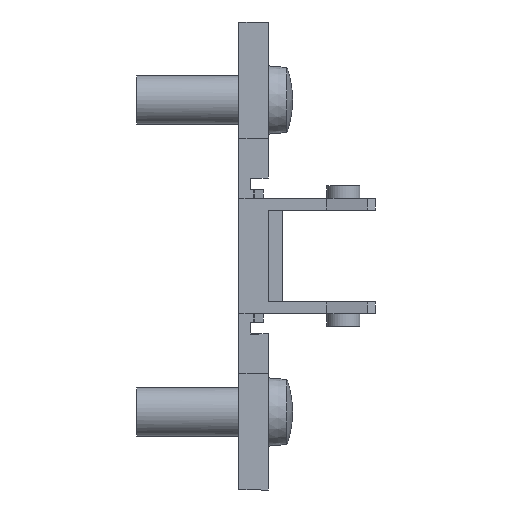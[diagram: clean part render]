
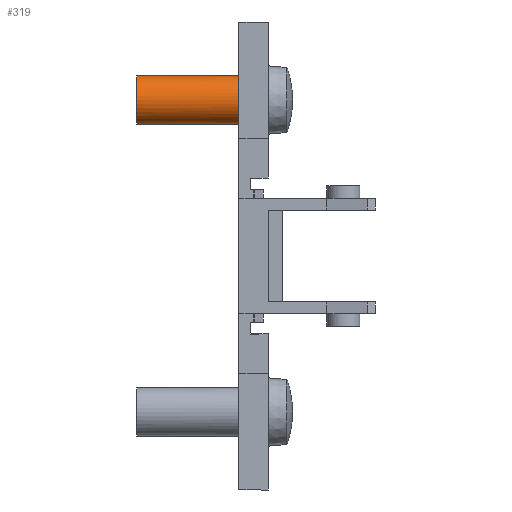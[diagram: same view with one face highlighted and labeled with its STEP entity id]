
A CAD part, front view. The second image highlights one B-rep face of the part: STEP entity #319.
In plain terms, the highlighted cylindrical face has radius 2.5 mm (diameter 5 mm), a partial arc.
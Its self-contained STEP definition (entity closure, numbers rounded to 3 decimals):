
#80 = VERTEX_POINT ( 'NONE', #2513 ) ;
#81 = VERTEX_POINT ( 'NONE', #2508 ) ;
#82 = VERTEX_POINT ( 'NONE', #2498 ) ;
#84 = VERTEX_POINT ( 'NONE', #2564 ) ;
#85 = VERTEX_POINT ( 'NONE', #2562 ) ;
#87 = VERTEX_POINT ( 'NONE', #2454 ) ;
#319 = ADVANCED_FACE ( 'NONE', ( #3715 ), #3718, .T. ) ;
#531 = CIRCLE ( 'NONE', #1163, 2.5 ) ;
#562 = CIRCLE ( 'NONE', #1161, 2.5 ) ;
#593 = LINE ( 'NONE', #2042, #594 ) ;
#594 = VECTOR ( 'NONE', #2043, 1000. ) ;
#620 = CIRCLE ( 'NONE', #1176, 2.5 ) ;
#651 = CIRCLE ( 'NONE', #1175, 2.5 ) ;
#804 = EDGE_CURVE ( 'NONE', #85, #84, #3768, .T. ) ;
#1078 = AXIS2_PLACEMENT_3D ( 'NONE', #1245, #1244, #1243 ) ;
#1161 = AXIS2_PLACEMENT_3D ( 'NONE', #1986, #2001, #2002 ) ;
#1163 = AXIS2_PLACEMENT_3D ( 'NONE', #1959, #1961, #1962 ) ;
#1175 = AXIS2_PLACEMENT_3D ( 'NONE', #2106, #2108, #2109 ) ;
#1176 = AXIS2_PLACEMENT_3D ( 'NONE', #2057, #2074, #2075 ) ;
#1243 = DIRECTION ( 'NONE',  ( 0., 0., -1. ) ) ;
#1244 = DIRECTION ( 'NONE',  ( -1., 0., 0. ) ) ;
#1245 = CARTESIAN_POINT ( 'NONE',  ( -10.5, 0., 16. ) ) ;
#1360 = CARTESIAN_POINT ( 'NONE',  ( -10.5, 0., 13.5 ) ) ;
#1365 = DIRECTION ( 'NONE',  ( -1., 0., 0. ) ) ;
#1959 = CARTESIAN_POINT ( 'NONE',  ( 0., 0., 16. ) ) ;
#1961 = DIRECTION ( 'NONE',  ( 1., 0., 0. ) ) ;
#1962 = DIRECTION ( 'NONE',  ( 0., 0., -1. ) ) ;
#1986 = CARTESIAN_POINT ( 'NONE',  ( 0., 0., 16. ) ) ;
#2001 = DIRECTION ( 'NONE',  ( 1., 0., 0. ) ) ;
#2002 = DIRECTION ( 'NONE',  ( 0., 0., -1. ) ) ;
#2042 = CARTESIAN_POINT ( 'NONE',  ( -10.5, 0., 18.5 ) ) ;
#2043 = DIRECTION ( 'NONE',  ( -1., 0., 0. ) ) ;
#2057 = CARTESIAN_POINT ( 'NONE',  ( 0., 0., 16. ) ) ;
#2074 = DIRECTION ( 'NONE',  ( 1., 0., 0. ) ) ;
#2075 = DIRECTION ( 'NONE',  ( 0., 0., -1. ) ) ;
#2106 = CARTESIAN_POINT ( 'NONE',  ( -10.5, 0., 16. ) ) ;
#2108 = DIRECTION ( 'NONE',  ( 1., 0., 0. ) ) ;
#2109 = DIRECTION ( 'NONE',  ( 0., 0., -1. ) ) ;
#2454 = CARTESIAN_POINT ( 'NONE',  ( 0., -2.25, 14.91 ) ) ;
#2498 = CARTESIAN_POINT ( 'NONE',  ( -10.5, 0., 18.5 ) ) ;
#2508 = CARTESIAN_POINT ( 'NONE',  ( 0., -2.25, 17.09 ) ) ;
#2513 = CARTESIAN_POINT ( 'NONE',  ( 0., 0., 18.5 ) ) ;
#2562 = CARTESIAN_POINT ( 'NONE',  ( 0., 0., 13.5 ) ) ;
#2564 = CARTESIAN_POINT ( 'NONE',  ( -10.5, 0., 13.5 ) ) ;
#2765 = EDGE_LOOP ( 'NONE', ( #3581, #3553, #3545, #3563, #3578, #3566 ) ) ;
#3545 = ORIENTED_EDGE ( 'NONE', *, *, #4325, .T. ) ;
#3553 = ORIENTED_EDGE ( 'NONE', *, *, #4294, .T. ) ;
#3563 = ORIENTED_EDGE ( 'NONE', *, *, #804, .F. ) ;
#3566 = ORIENTED_EDGE ( 'NONE', *, *, #4276, .F. ) ;
#3578 = ORIENTED_EDGE ( 'NONE', *, *, #4308, .F. ) ;
#3581 = ORIENTED_EDGE ( 'NONE', *, *, #4258, .F. ) ;
#3715 = FACE_OUTER_BOUND ( 'NONE', #2765, .T. ) ;
#3718 = CYLINDRICAL_SURFACE ( 'NONE', #1078, 2.5 ) ;
#3768 = LINE ( 'NONE', #1360, #3782 ) ;
#3782 = VECTOR ( 'NONE', #1365, 1000. ) ;
#4258 = EDGE_CURVE ( 'NONE', #80, #81, #531, .T. ) ;
#4276 = EDGE_CURVE ( 'NONE', #81, #87, #562, .T. ) ;
#4294 = EDGE_CURVE ( 'NONE', #80, #82, #593, .T. ) ;
#4308 = EDGE_CURVE ( 'NONE', #87, #85, #620, .T. ) ;
#4325 = EDGE_CURVE ( 'NONE', #82, #84, #651, .T. ) ;
